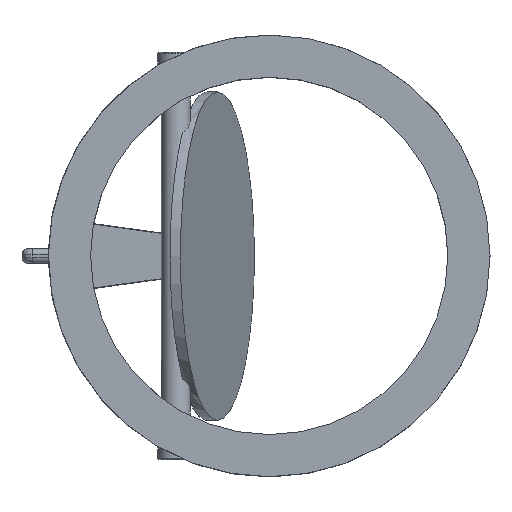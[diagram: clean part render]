
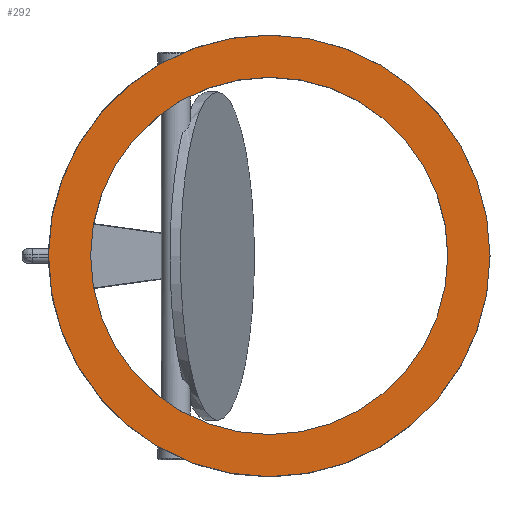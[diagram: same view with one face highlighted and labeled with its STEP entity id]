
A CAD part, top view. The second image highlights one B-rep face of the part: STEP entity #292.
In plain terms, the highlighted planar face has unit normal (0, 0, 1).
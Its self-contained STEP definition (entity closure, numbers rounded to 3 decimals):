
#292 = ADVANCED_FACE( '', ( #786, #787 ), #788, .F. );
#786 = FACE_OUTER_BOUND( '', #2473, .T. );
#787 = FACE_BOUND( '', #2474, .T. );
#788 = PLANE( '', #2475 );
#2473 = EDGE_LOOP( '', ( #13409 ) );
#2474 = EDGE_LOOP( '', ( #13410 ) );
#2475 = AXIS2_PLACEMENT_3D( '', #13411, #13412, #13413 );
#13409 = ORIENTED_EDGE( '', *, *, #15062, .F. );
#13410 = ORIENTED_EDGE( '', *, *, #14958, .F. );
#13411 = CARTESIAN_POINT( '', ( 0., 0., 76. ) );
#13412 = DIRECTION( '', ( 0., 0., -1. ) );
#13413 = DIRECTION( '', ( -1., 0., 0. ) );
#14958 = EDGE_CURVE( '', #15709, #15709, #15710, .T. );
#15062 = EDGE_CURVE( '', #15893, #15893, #15894, .T. );
#15709 = VERTEX_POINT( '', #16919 );
#15710 = CIRCLE( '', #16920, 250. );
#15893 = VERTEX_POINT( '', #18709 );
#15894 = CIRCLE( '', #18710, 309. );
#16919 = CARTESIAN_POINT( '', ( 0., -250., 76. ) );
#16920 = AXIS2_PLACEMENT_3D( '', #26418, #26419, #26420 );
#18709 = CARTESIAN_POINT( '', ( 309., 0., 76. ) );
#18710 = AXIS2_PLACEMENT_3D( '', #26435, #26436, #26437 );
#26418 = CARTESIAN_POINT( '', ( 0., 0., 76. ) );
#26419 = DIRECTION( '', ( 0., 0., 1. ) );
#26420 = DIRECTION( '', ( 0., -1., 0. ) );
#26435 = CARTESIAN_POINT( '', ( 0., 0., 76. ) );
#26436 = DIRECTION( '', ( 0., 0., -1. ) );
#26437 = DIRECTION( '', ( 1., 0., 0. ) );
